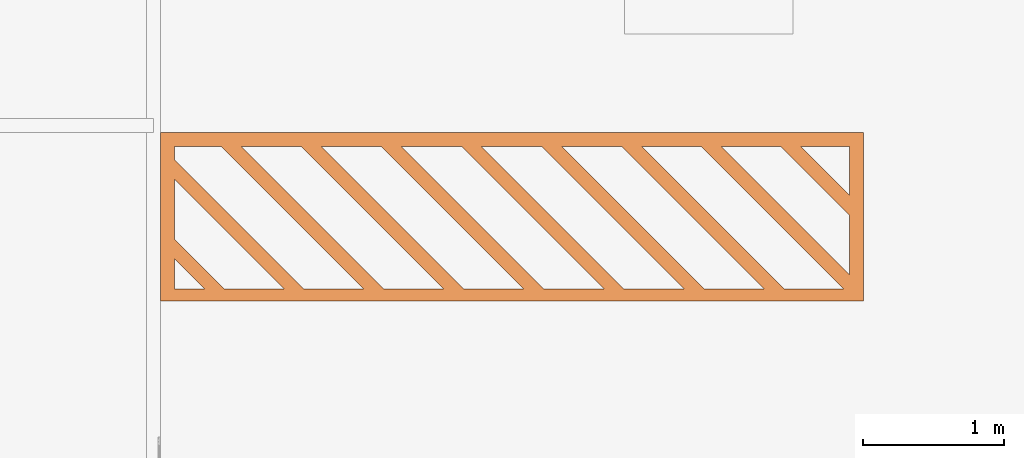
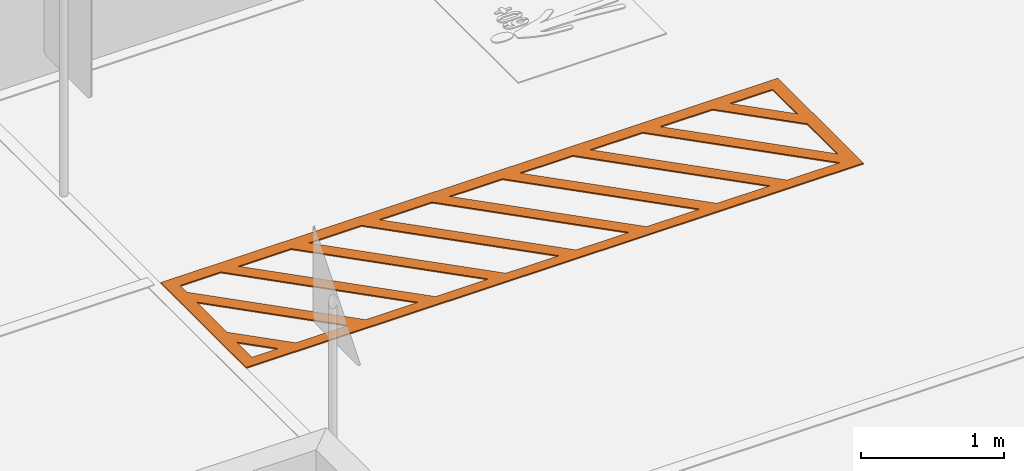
# One storey, part 214 of 237: 1 proxy.
"""IFC2X3 building model written with IfcOpenShell, lengths in millimetres."""

from ifc_helpers import new_model, entity, si_unit, converted_unit, derived_unit, money_unit, direction, frame, origin_with_axes, place, context, subcontext, project, spatial, faceted_brep, material, type_object, element, save


model = new_model("IFC2X3")

# Units and contexts
model_context = context("Model", 3, precision=0.01, world=origin_with_axes(), true_north=direction((0.0, 1.0)))
body_context = subcontext(model_context, "Body", "Model", "MODEL_VIEW")
ifc_project = project(units=[si_unit("LENGTHUNIT", "METRE", prefix="MILLI"), si_unit("AREAUNIT", "SQUARE_METRE"), si_unit("VOLUMEUNIT", "CUBIC_METRE"), converted_unit("PLANEANGLEUNIT", "DEGREE", entity("IfcPlaneAngleMeasure", 0.0174532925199), si_unit("PLANEANGLEUNIT", "RADIAN"), dimensions=[0, 0, 0, 0, 0, 0, 0]), money_unit("USD"), converted_unit("TIMEUNIT", "Year", entity("IfcTimeMeasure", 31556926.0), si_unit("TIMEUNIT", "SECOND"), dimensions=[0, 0, 1, 0, 0, 0, 0]), si_unit("MASSUNIT", "GRAM", prefix="KILO"), si_unit("THERMODYNAMICTEMPERATUREUNIT", "DEGREE_CELSIUS"), si_unit("LUMINOUSINTENSITYUNIT", "LUMEN"), si_unit("ENERGYUNIT", "JOULE", prefix="MEGA"), derived_unit("THERMALCONDUCTANCEUNIT", [(si_unit("POWERUNIT", "WATT"), 1), (si_unit("LENGTHUNIT", "METRE"), -1), (si_unit("THERMODYNAMICTEMPERATUREUNIT", "KELVIN"), -1)]), derived_unit("SPECIFICHEATCAPACITYUNIT", [(si_unit("ENERGYUNIT", "JOULE"), 1), (si_unit("MASSUNIT", "GRAM", prefix="KILO"), -1), (si_unit("THERMODYNAMICTEMPERATUREUNIT", "KELVIN"), -1)]), derived_unit("MASSDENSITYUNIT", [(si_unit("MASSUNIT", "GRAM", prefix="KILO"), 1), (si_unit("VOLUMEUNIT", "CUBIC_METRE"), -1)])], contexts=[model_context])

# Site, building, storey
site_placement = place(None, origin_with_axes())
site = spatial("IfcSite", under=ifc_project, at=site_placement, Name="Local", CompositionType="ELEMENT")
building_placement = place(site_placement, origin_with_axes())
building = spatial("IfcBuilding", under=site, at=building_placement, Name="Construção", CompositionType="ELEMENT")
storey_placement = place(building_placement, origin_with_axes())
storey = spatial("IfcBuildingStorey", under=building, at=storey_placement, Name="Pavimento Térreo", CompositionType="ELEMENT", Elevation=0.0)

# Proxy
ifc_material = material(Name="Concreto")
building_element_proxy_type = type_object("IfcBuildingElementProxyType", Name="Marcação PIso Def Fisico", PredefinedType="NOTDEFINED")
proxy_placement = place(storey_placement, frame((120567.274131, 31849.9942837, -7270.0), z_axis=(0.0, 0.0, 1.0), x_axis=(-1.0, 0.0, 0.0)))
element("IfcBuildingElementProxy", 1, at=proxy_placement, inside=storey, type_object=building_element_proxy_type, material=ifc_material, Name="Objeto-0003", context=body_context, shape_type="Brep", body=[
    faceted_brep([(0.0, 1200.0, 0.0), (0.0, 0.0, 0.0), (0.0, 0.0, 10.0), (0.0, 1200.0, 10.0), (5000.0, 1200.0, 0.0), (5000.0, 0.0, 0.0), (446.3145668, 100.0, 0.0), (100.0, 446.31456679, 0.0), (100.0, 100.0, 0.0), (100.0, 1011.99999106, 0.0), (100.0, 587.73596011, 0.0), (587.7359601, 100.0, 0.0), (1011.999991, 100.0, 0.0), (141.4213188, 1111.99999106, 0.0), (1153.4213844, 100.0, 0.0), (1577.6854898, 100.0, 0.0), (565.6854242, 1111.99999106, 0.0), (1719.1068086, 100.0, 0.0), (2147.6854749, 100.0, 0.0), (1135.6854093, 1111.99999106, 0.0), (707.1068176, 1111.99999106, 0.0), (1277.1068027, 1111.99999106, 0.0), (2289.1068682, 100.0, 0.0), (2717.68546, 100.0, 0.0), (1705.6853944, 1111.99999106, 0.0), (1847.1067878, 1111.99999106, 0.0), (2859.1068533, 100.0, 0.0), (3287.6854451, 100.0, 0.0), (2275.685454, 1111.99999106, 0.0), (2417.1067729, 1111.99999106, 0.0), (3429.1068384, 100.0, 0.0), (3857.6855047, 100.0, 0.0), (2845.6854391, 1111.99999106, 0.0), (2987.106758, 1111.99999106, 0.0), (3999.1068235, 100.0, 0.0), (4427.6854898, 100.0, 0.0), (3415.6854242, 1111.99999106, 0.0), (3557.1068176, 1111.99999106, 0.0), (4569.1068086, 100.0, 0.0), (4900.0, 100.0, 0.0), (4900.0, 193.37083959, 0.0), (3981.3708485, 1111.99999106, 0.0), (4122.7922418, 1111.99999106, 0.0), (4900.0, 334.79223291, 0.0), (4900.0, 759.05626385, 0.0), (4547.0562728, 1111.99999106, 0.0), (4900.0, 900.47765717, 0.0), (4900.0, 1111.99999106, 0.0), (4688.4776661, 1111.99999106, 0.0), (5000.0, 0.0, 10.0), (5000.0, 1200.0, 10.0), (446.3145668, 100.0, 10.0), (100.0, 100.0, 10.0), (100.0, 446.31456679, 10.0), (100.0, 1011.99999106, 10.0), (1011.999991, 100.0, 10.0), (587.7359601, 100.0, 10.0), (100.0, 587.73596011, 10.0), (141.4213188, 1111.99999106, 10.0), (565.6854242, 1111.99999106, 10.0), (1577.6854898, 100.0, 10.0), (1153.4213844, 100.0, 10.0), (1719.1068086, 100.0, 10.0), (707.1068176, 1111.99999106, 10.0), (1135.6854093, 1111.99999106, 10.0), (2147.6854749, 100.0, 10.0), (1277.1068027, 1111.99999106, 10.0), (1705.6853944, 1111.99999106, 10.0), (2717.68546, 100.0, 10.0), (2289.1068682, 100.0, 10.0), (1847.1067878, 1111.99999106, 10.0), (2275.685454, 1111.99999106, 10.0), (3287.6854451, 100.0, 10.0), (2859.1068533, 100.0, 10.0), (2417.1067729, 1111.99999106, 10.0), (2845.6854391, 1111.99999106, 10.0), (3857.6855047, 100.0, 10.0), (3429.1068384, 100.0, 10.0), (2987.106758, 1111.99999106, 10.0), (3415.6854242, 1111.99999106, 10.0), (4427.6854898, 100.0, 10.0), (3999.1068235, 100.0, 10.0), (3557.1068176, 1111.99999106, 10.0), (3981.3708485, 1111.99999106, 10.0), (4900.0, 193.37083959, 10.0), (4900.0, 100.0, 10.0), (4569.1068086, 100.0, 10.0), (4122.7922418, 1111.99999106, 10.0), (4547.0562728, 1111.99999106, 10.0), (4900.0, 759.05626385, 10.0), (4900.0, 334.79223291, 10.0), (4900.0, 900.47765717, 10.0), (4688.4776661, 1111.99999106, 10.0), (4900.0, 1111.99999106, 10.0)], [[[0, 1, 2, 3]], [[0, 4, 5, 1], [6, 7, 8], [9, 10, 11, 12], [13, 14, 15, 16], [17, 18, 19, 20], [21, 22, 23, 24], [25, 26, 27, 28], [29, 30, 31, 32], [33, 34, 35, 36], [37, 38, 39, 40, 41], [42, 43, 44, 45], [46, 47, 48]], [[1, 5, 49, 2]], [[3, 2, 49, 50], [51, 52, 53], [54, 55, 56, 57], [58, 59, 60, 61], [62, 63, 64, 65], [66, 67, 68, 69], [70, 71, 72, 73], [74, 75, 76, 77], [78, 79, 80, 81], [82, 83, 84, 85, 86], [87, 88, 89, 90], [91, 92, 93]], [[4, 0, 3, 50]], [[5, 4, 50, 49]], [[7, 6, 51, 53]], [[8, 7, 53, 52]], [[6, 8, 52, 51]], [[10, 9, 54, 57]], [[11, 10, 57, 56]], [[12, 11, 56, 55]], [[9, 12, 55, 54]], [[14, 13, 58, 61]], [[15, 14, 61, 60]], [[16, 15, 60, 59]], [[13, 16, 59, 58]], [[18, 17, 62, 65]], [[19, 18, 65, 64]], [[20, 19, 64, 63]], [[17, 20, 63, 62]], [[22, 21, 66, 69]], [[23, 22, 69, 68]], [[24, 23, 68, 67]], [[21, 24, 67, 66]], [[26, 25, 70, 73]], [[27, 26, 73, 72]], [[28, 27, 72, 71]], [[25, 28, 71, 70]], [[30, 29, 74, 77]], [[31, 30, 77, 76]], [[32, 31, 76, 75]], [[29, 32, 75, 74]], [[34, 33, 78, 81]], [[35, 34, 81, 80]], [[36, 35, 80, 79]], [[33, 36, 79, 78]], [[38, 37, 82, 86]], [[39, 38, 86, 85]], [[40, 39, 85, 84]], [[41, 40, 84, 83]], [[37, 41, 83, 82]], [[43, 42, 87, 90]], [[44, 43, 90, 89]], [[45, 44, 89, 88]], [[42, 45, 88, 87]], [[47, 46, 91, 93]], [[48, 47, 93, 92]], [[46, 48, 92, 91]]]),
])

save(model, "model.ifc")
